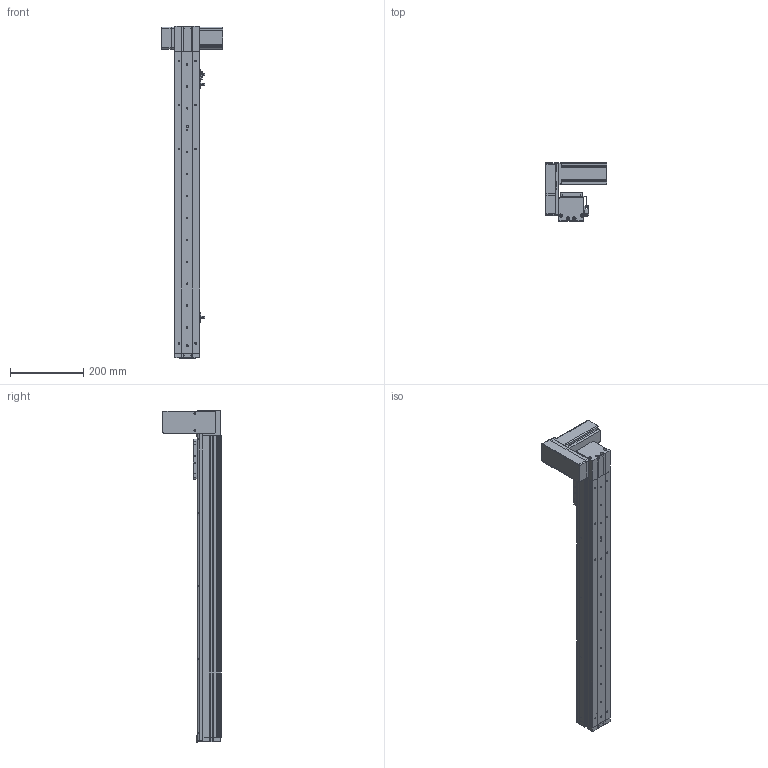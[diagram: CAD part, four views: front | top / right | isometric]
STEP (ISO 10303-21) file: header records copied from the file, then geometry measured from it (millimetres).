
FILE_DESCRIPTION (( 'STEP AP214' ), '1' );
FILE_NAME ('KSD68BS-S650-MRU-CR.STEP', '2019-11-08T05:53:38', ( '微软用户' ), ( '微软中国' ), 'SwSTEP 2.0', 'SolidWorks 2014', '' );
FILE_SCHEMA (( 'AUTOMOTIVE_DESIGN' ));
Length unit declared in the file: millimetre
Products named in the file (14): KSD68BS 650行程盖板全封闭; 68宽单导轨全封闭同步带端板; 68单导轨全封闭同步带电机座右; 68单导轨全封闭同步带安装板; 悵誘欶奻狟殏; 68宽马达安装板连板上折同步带; 感应片68宽全封闭; U倰嫖萇EEㄜSX672; 台达ECMA－C20604AS伺服电机（400W); KSD68BS 650行程底板全封闭; 68遵裔啣揤啣1; KSD68BS-S650-MRU-CR; 68宽单导轨全封闭丝杆传动安装板1防护罩; KSD68BS 650行程侧板全封闭
Assembly tree (17 placements, depth 2):
  KSD68BS-S650-MRU-CR
    KSD68BS 650行程底板全封闭
    台达ECMA－C20604AS伺服电机（400W)
    U倰嫖萇EEㄜSX672  x3
    感应片68宽全封闭
    68宽马达安装板连板上折同步带
    悵誘欶奻狟殏
    68单导轨全封闭同步带安装板
    68单导轨全封闭同步带电机座右
    68宽单导轨全封闭同步带端板
    KSD68BS 650行程侧板全封闭  x2
    68宽单导轨全封闭丝杆传动安装板1防护罩
    68遵裔啣揤啣1  x2
    KSD68BS 650行程盖板全封闭
Bounding box: 167.2 x 159.5 x 908.1 mm (x, y, z)
Volume: 2066661.9 mm3; surface area: 748926.9 mm2
Topology: 18 solids, 18 shells, 1406 faces, 3943 edges, 2535 vertices
Faces by surface type: cylinder 643, plane 627, cone 136
Entity records: 43278 total; most frequent: CARTESIAN_POINT 7215, DIRECTION 6549, ORIENTED_EDGE 6254, EDGE_CURVE 3127, AXIS2_PLACEMENT_3D 2335, VERTEX_POINT 2053, LINE 1879, VECTOR 1879
